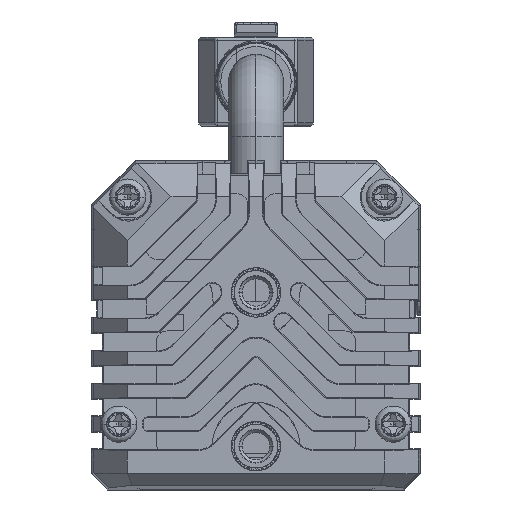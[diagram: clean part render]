
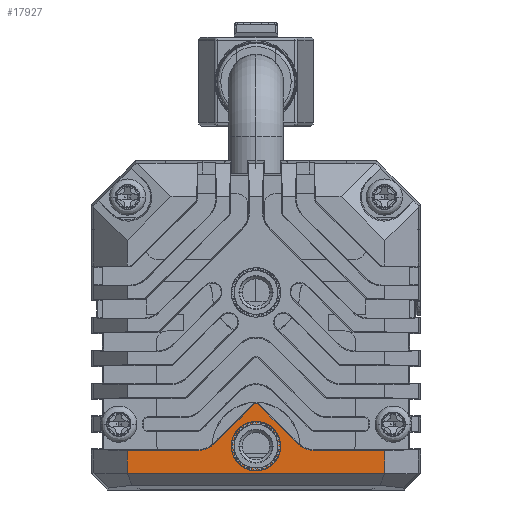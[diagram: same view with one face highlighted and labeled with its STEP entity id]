
A CAD part, left-side view. The second image highlights one B-rep face of the part: STEP entity #17927.
In plain terms, the highlighted planar face has unit normal (-1, 0, 0) as drawn and (1, 0, 0) by its records, which use the part's own axes.
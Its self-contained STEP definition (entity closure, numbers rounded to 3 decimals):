
#10835=CARTESIAN_POINT('',(5.,0.,7.527));
#10836=DIRECTION('',(1.,0.,0.));
#10837=DIRECTION('',(0.,0.707,0.707));
#10838=AXIS2_PLACEMENT_3D('',#10835,#10836,#10837);
#10844=DIRECTION('',(0.,0.707,-0.707));
#10845=VECTOR('',#10844,5.013);
#10846=CARTESIAN_POINT('',(5.,0.242,7.769));
#10847=LINE('',#10846,#10845);
#10851=DIRECTION('',(0.,-1.,0.));
#10852=VECTOR('',#10851,6.438);
#10853=CARTESIAN_POINT('',(5.,11.75,3.593));
#10854=LINE('',#10853,#10852);
#10858=DIRECTION('',(0.,0.,1.));
#10859=VECTOR('',#10858,2.093);
#10860=CARTESIAN_POINT('',(5.,11.75,1.5));
#10861=LINE('',#10860,#10859);
#10865=DIRECTION('',(0.,1.,0.));
#10866=VECTOR('',#10865,23.5);
#10867=CARTESIAN_POINT('',(5.,-11.75,1.5));
#10868=LINE('',#10867,#10866);
#10872=DIRECTION('',(0.,0.,-1.));
#10873=VECTOR('',#10872,2.093);
#10874=CARTESIAN_POINT('',(5.,-11.75,3.593));
#10875=LINE('',#10874,#10873);
#10879=DIRECTION('',(0.,1.,0.));
#10880=VECTOR('',#10879,6.438);
#10881=CARTESIAN_POINT('',(5.,-11.75,3.593));
#10882=LINE('',#10881,#10880);
#10886=DIRECTION('',(0.,0.707,0.707));
#10887=VECTOR('',#10886,5.013);
#10888=CARTESIAN_POINT('',(5.,-3.787,4.225));
#10889=LINE('',#10888,#10887);
#10893=CARTESIAN_POINT('',(5.,0.,4.));
#10894=DIRECTION('',(1.,0.,0.));
#10895=DIRECTION('',(0.,1.,0.));
#10896=AXIS2_PLACEMENT_3D('',#10893,#10894,#10895);
#10901=CARTESIAN_POINT('',(5.,0.,4.));
#10902=DIRECTION('',(1.,0.,0.));
#10903=DIRECTION('',(0.,-1.,0.));
#10904=AXIS2_PLACEMENT_3D('',#10901,#10902,#10903);
#11630=CARTESIAN_POINT('',(5.,-5.312,5.75));
#11631=DIRECTION('',(-1.,0.,0.));
#11632=DIRECTION('',(0.,0.707,-0.707));
#11633=AXIS2_PLACEMENT_3D('',#11630,#11631,#11632);
#15149=CARTESIAN_POINT('',(5.,5.312,5.75));
#15150=DIRECTION('',(-1.,0.,0.));
#15151=DIRECTION('',(0.,0.,-1.));
#15152=AXIS2_PLACEMENT_3D('',#15149,#15150,#15151);
#16822=CARTESIAN_POINT('',(5.,2.,4.));
#16823=CARTESIAN_POINT('',(5.,-2.,4.));
#16824=VERTEX_POINT('',#16822);
#16825=VERTEX_POINT('',#16823);
#16826=CARTESIAN_POINT('',(5.,-11.75,1.5));
#16827=CARTESIAN_POINT('',(5.,11.75,1.5));
#16828=VERTEX_POINT('',#16826);
#16829=VERTEX_POINT('',#16827);
#16928=CARTESIAN_POINT('',(5.,5.312,3.593));
#16929=VERTEX_POINT('',#16928);
#16930=CARTESIAN_POINT('',(5.,3.787,4.225));
#16931=VERTEX_POINT('',#16930);
#16936=CARTESIAN_POINT('',(5.,-3.787,4.225));
#16937=VERTEX_POINT('',#16936);
#16938=CARTESIAN_POINT('',(5.,-5.312,3.593));
#16939=VERTEX_POINT('',#16938);
#17016=CARTESIAN_POINT('',(5.,-11.75,3.593));
#17017=VERTEX_POINT('',#17016);
#17018=CARTESIAN_POINT('',(5.,11.75,3.593));
#17019=VERTEX_POINT('',#17018);
#17036=CARTESIAN_POINT('',(5.,0.242,7.769));
#17037=CARTESIAN_POINT('',(5.,-0.242,7.769));
#17038=VERTEX_POINT('',#17036);
#17039=VERTEX_POINT('',#17037);
#17894=CARTESIAN_POINT('',(5.,0.,0.));
#17895=DIRECTION('',(1.,0.,0.));
#17896=DIRECTION('',(0.,1.,0.));
#17897=AXIS2_PLACEMENT_3D('',#17894,#17895,#17896);
#17898=PLANE('',#17897);
#17900=ORIENTED_EDGE('',*,*,#17899,.F.);
#17902=ORIENTED_EDGE('',*,*,#17901,.T.);
#17904=ORIENTED_EDGE('',*,*,#17903,.F.);
#17906=ORIENTED_EDGE('',*,*,#17905,.F.);
#17908=ORIENTED_EDGE('',*,*,#17907,.F.);
#17910=ORIENTED_EDGE('',*,*,#17909,.F.);
#17912=ORIENTED_EDGE('',*,*,#17911,.F.);
#17914=ORIENTED_EDGE('',*,*,#17913,.T.);
#17916=ORIENTED_EDGE('',*,*,#17915,.F.);
#17918=ORIENTED_EDGE('',*,*,#17917,.T.);
#17919=EDGE_LOOP('',(#17900,#17902,#17904,#17906,#17908,#17910,#17912,#17914,
#17916,#17918));
#17920=FACE_OUTER_BOUND('',#17919,.F.);
#17922=ORIENTED_EDGE('',*,*,#17921,.T.);
#17924=ORIENTED_EDGE('',*,*,#17923,.T.);
#17925=EDGE_LOOP('',(#17922,#17924));
#17926=FACE_BOUND('',#17925,.F.);
#10839=CIRCLE('',#10838,0.343);
#10897=CIRCLE('',#10896,2.);
#10905=CIRCLE('',#10904,2.);
#11634=CIRCLE('',#11633,2.157);
#15153=CIRCLE('',#15152,2.157);
#17899=EDGE_CURVE('',#17038,#17039,#10839,.T.);
#17901=EDGE_CURVE('',#17038,#16931,#10847,.T.);
#17903=EDGE_CURVE('',#16929,#16931,#15153,.T.);
#17905=EDGE_CURVE('',#17019,#16929,#10854,.T.);
#17907=EDGE_CURVE('',#16829,#17019,#10861,.T.);
#17909=EDGE_CURVE('',#16828,#16829,#10868,.T.);
#17911=EDGE_CURVE('',#17017,#16828,#10875,.T.);
#17913=EDGE_CURVE('',#17017,#16939,#10882,.T.);
#17915=EDGE_CURVE('',#16937,#16939,#11634,.T.);
#17917=EDGE_CURVE('',#16937,#17039,#10889,.T.);
#17921=EDGE_CURVE('',#16824,#16825,#10897,.T.);
#17923=EDGE_CURVE('',#16825,#16824,#10905,.T.);
#17927=ADVANCED_FACE('',(#17920,#17926),#17898,.T.);
